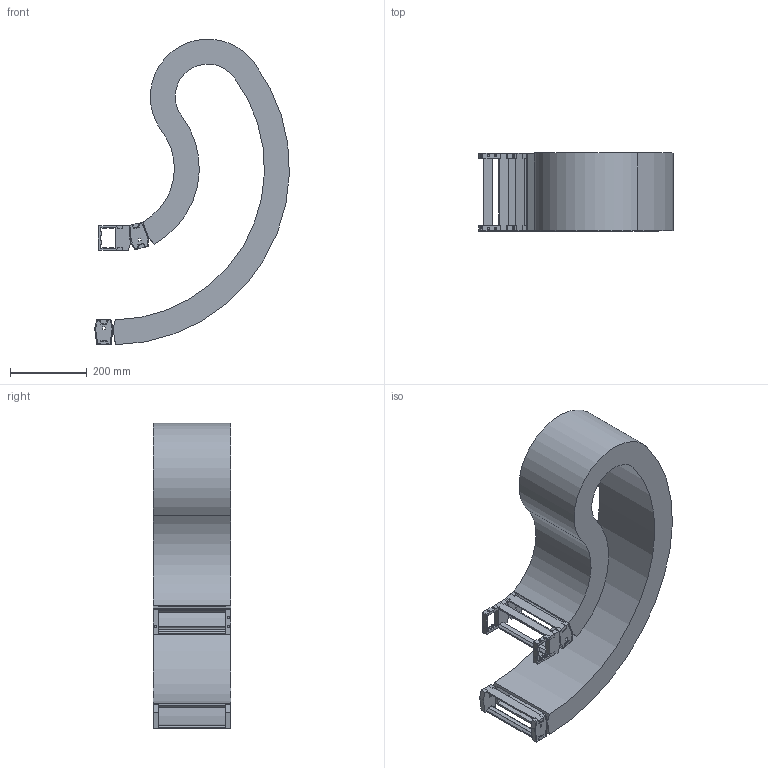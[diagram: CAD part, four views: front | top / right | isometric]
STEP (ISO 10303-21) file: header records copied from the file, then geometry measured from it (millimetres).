
FILE_DESCRIPTION( ( 'STEP AP214' ), '1' );
FILE_NAME( 'p:/temp/worker_35/temp/exporttempdir_1060_2164_BMJQN/format_0/RV048CRA20321116090300450-001752474.68352.stp', '2021-07-27T04:45:52', ( 'License CC BY-ND 4.0' ), ( 'CADENAS' ), ' ', 'PARTsolutions', ' ' );
FILE_SCHEMA( ( 'AUTOMOTIVE_DESIGN { 1 0 10303 214 1 1 1 1 }' ) );
Length unit declared in the file: millimetre
Products named in the file (4): RV048CRA20321116090300450-001752474.68352; _RV048CRA20321116090300450-001771501.283-Chain; _RV048CR-SU-48-175; _RV048CR_FB-203
Assembly tree (4 placements, depth 2):
  RV048CRA20321116090300450-001752474.68352
    _RV048CRA20321116090300450-001771501.283-Chain
    _RV048CR-SU-48-175  x2
    _RV048CR_FB-203
Bounding box: 507.79 x 203 x 796.98 mm (x, y, z)
Volume: 6697151.6 mm3; surface area: 1770472 mm2
Topology: 4 solids, 4 shells, 507 faces, 1482 edges, 980 vertices
Faces by surface type: plane 389, cylinder 118
Full cylindrical faces by diameter (mm): 6 x12
Entity records: 14298 total; most frequent: CARTESIAN_POINT 2024, ORIENTED_EDGE 2004, DIRECTION 1890, EDGE_CURVE 1002, LINE 822, VECTOR 822, VERTEX_POINT 668, AXIS2_PLACEMENT_3D 534
